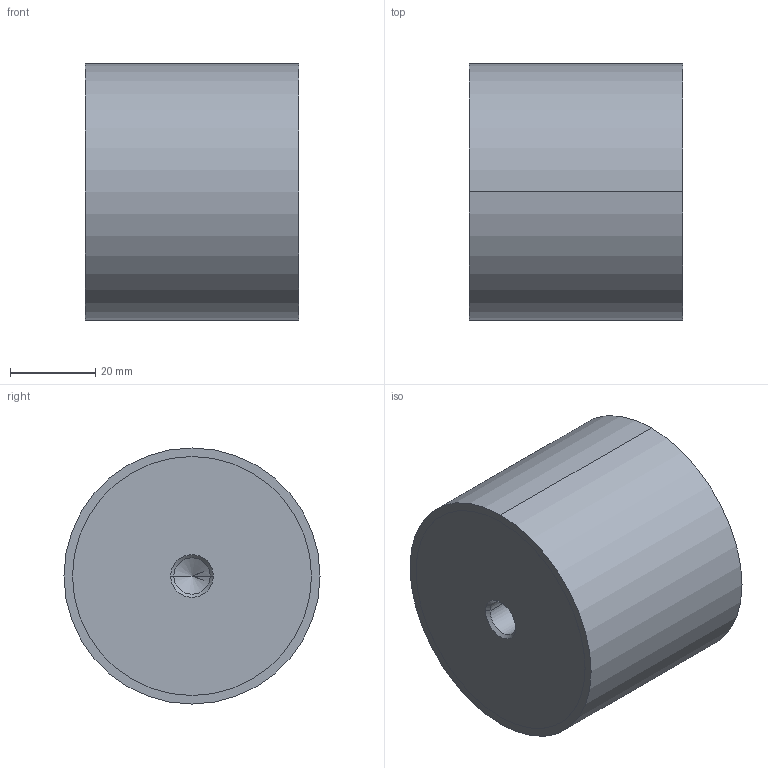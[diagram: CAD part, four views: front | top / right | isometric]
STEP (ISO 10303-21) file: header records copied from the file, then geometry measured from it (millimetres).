
FILE_DESCRIPTION (( 'STEP AP214' ), '1' );
FILE_NAME ('351-60-50-M10-EE-70.step', '2025-07-23T09:40:40', ( '' ), ( '' ), 'SwSTEP 2.0', 'SolidWorks 2022', '' );
FILE_SCHEMA (( 'AUTOMOTIVE_DESIGN' ));
Length unit declared in the file: millimetre
Products named in the file (1): 351-60-50-M10-EE-70
Bounding box: 50 x 60 x 60 mm (x, y, z)
Volume: 139948 mm3; surface area: 15675.3 mm2
Topology: 1 solids, 1 shells, 28 faces, 58 edges, 34 vertices
Faces by surface type: cylinder 14, cone 8, plane 6
Entity records: 844 total; most frequent: DIRECTION 144, CARTESIAN_POINT 117, ORIENTED_EDGE 108, AXIS2_PLACEMENT_3D 61, EDGE_CURVE 54, EDGE_LOOP 34, VERTEX_POINT 34, CIRCLE 32
